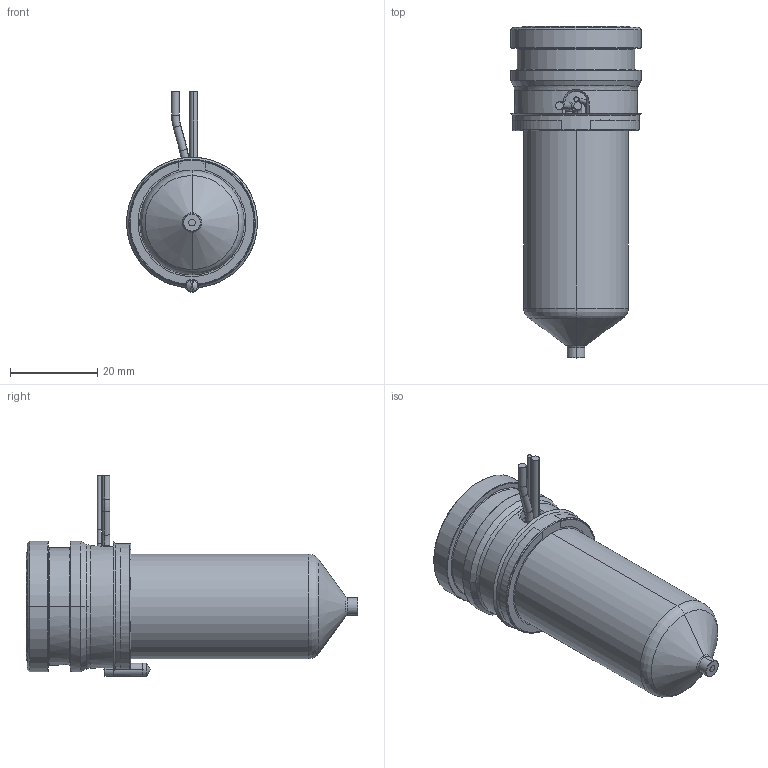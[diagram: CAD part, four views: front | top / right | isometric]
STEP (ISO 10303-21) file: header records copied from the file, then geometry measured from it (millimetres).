
FILE_DESCRIPTION((''),'2;1');
FILE_NAME('MPN-10-29-VP4-056-A','2026-02-05T12:42:08',('UPTIO'),('Thermoplay S.p.A.'),'CREO PARAMETRIC BY PTC INC, 2023494','CREO PARAMETRIC BY PTC INC, 2023494','');
FILE_SCHEMA(('CONFIG_CONTROL_DESIGN','SHAPE_APPEARANCE_LAYERS_GROUPS'));
Length unit declared in the file: millimetre
Products named in the file (1): MPN-10-29-VP4-056-A
Bounding box: 30 x 76.1 x 46 mm (x, y, z)
Volume: 24995.8 mm3; surface area: 24625.2 mm2
Topology: 2 solids, 3 shells, 583 faces, 1551 edges, 966 vertices
Faces by surface type: cylinder 180, plane 156, bspline 98, torus 70, cone 68, sphere 7, extrusion 4
Entity records: 32394 total; most frequent: CARTESIAN_POINT 15417, ORIENTED_EDGE 3090, DIRECTION 2700, EDGE_CURVE 1545, AXIS2_PLACEMENT_3D 1067, VERTEX_POINT 966, EDGE_LOOP 611, CIRCLE 585
